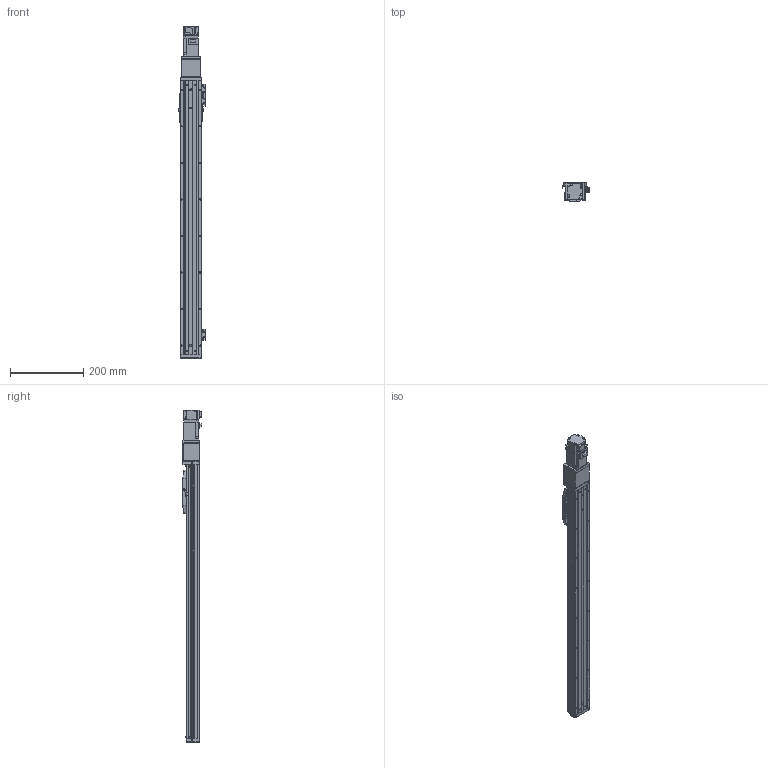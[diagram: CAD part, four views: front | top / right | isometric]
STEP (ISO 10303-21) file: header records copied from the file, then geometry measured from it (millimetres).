
FILE_DESCRIPTION (( 'STEP AP203' ), '1' );
FILE_NAME ('CTHA50-600-BC-M10-C4L.step', '2022-03-19T05:57:10', ( '微软用户' ), ( '微软中国' ), 'SwSTEP 2.0', 'SolidWorks 2020', '' );
FILE_SCHEMA (( 'CONFIG_CONTROL_DESIGN' ));
Length unit declared in the file: millimetre
Products named in the file (20): GBT77-2000 M3×3; CTHA50-006-2_CTHA60-006-2; CTHA50-600-BC-M10-C4L; GBT 70.1-M3℅6; CTHA50-013; KTHA50-001_750; CTHA60-017; HG-KR13（三菱）; KTHA50-004; GBT 70.1-M4×12; GBT 70.3-M3℅6; KTHA50-005; CTHA60-016; CTHA50-002; GB¨uT 70.2-M3¡Á6_M3¡Á6; CTHA60-021; CTHA50-030; EE_SX911P_R; CTHA50-027; CTHA50-031
Assembly tree (59 placements, depth 2):
  CTHA50-600-BC-M10-C4L
    KTHA50-001_750
    KTHA50-004
    KTHA50-005
    GB¨uT 70.2-M3¡Á6_M3¡Á6  x10
    EE_SX911P_R  x3
    GBT77-2000 M3×3  x6
    GBT 70.1-M3℅6  x6
    CTHA60-017  x3
    GBT 70.1-M4×12  x10
    CTHA60-016  x2
    CTHA60-021  x2
    CTHA50-027
    CTHA50-006-2_CTHA60-006-2
    CTHA50-013
    HG-KR13（三菱）
    GBT 70.3-M3℅6  x6
    CTHA50-002
    CTHA50-030  x2
    CTHA50-031
Bounding box: 74.12 x 53.3 x 908.6 mm (x, y, z)
Volume: 1453131 mm3; surface area: 386642.8 mm2
Topology: 61 solids, 61 shells, 2456 faces, 5850 edges, 3582 vertices
Faces by surface type: plane 1414, cylinder 556, cone 366, torus 96, sphere 24
Entity records: 40636 total; most frequent: CARTESIAN_POINT 6563, DIRECTION 6520, ORIENTED_EDGE 6268, EDGE_CURVE 3134, LINE 2288, VECTOR 2288, AXIS2_PLACEMENT_3D 2116, VERTEX_POINT 1975
